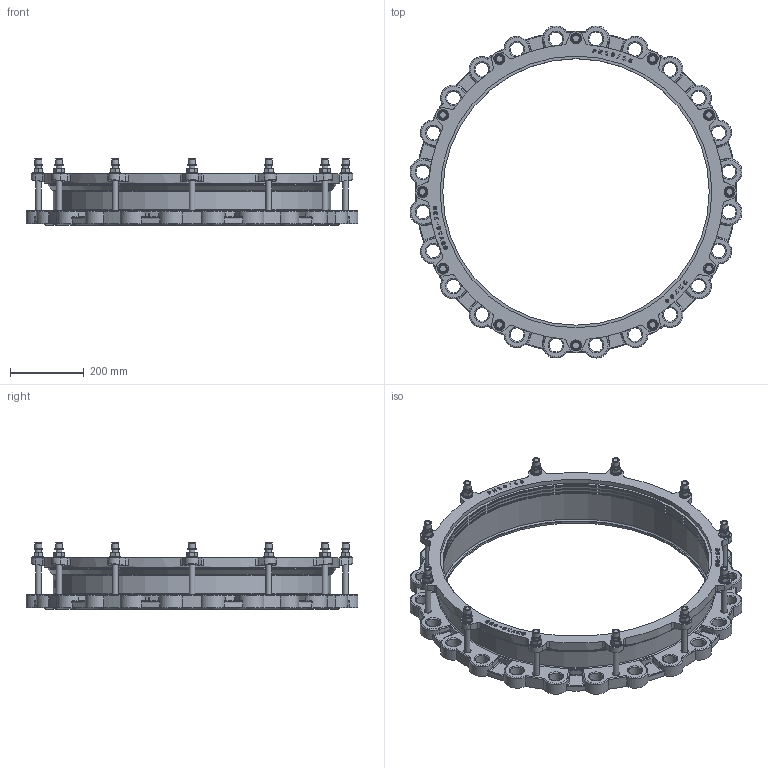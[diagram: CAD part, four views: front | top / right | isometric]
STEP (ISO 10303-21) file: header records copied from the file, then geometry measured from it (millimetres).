
FILE_DESCRIPTION(('STEP AP203'), '1');
FILE_NAME('Ôëàíöåâûé àäàïòåð', '', ('UNSPECIFIED'), ('UNSPECIFIED'), 'C3D Converter', 'C3D Toolkit', '');
FILE_SCHEMA(('CONFIG_CONTROL_DESIGN'));
Length unit declared in the file: millimetre
Assembly tree (51 placements, depth 2):
  (unnamed)
    (unnamed)
    (unnamed)  x12
    (unnamed)  x12
    (unnamed)  x12
    (unnamed)  x12
    (unnamed)
    (unnamed)
Bounding box: 902.74 x 902.74 x 181.6 mm (x, y, z)
Volume: 10504291.8 mm3; surface area: 1925725.2 mm2
Topology: 51 solids, 51 shells, 1886 faces, 4654 edges, 2778 vertices
Faces by surface type: plane 588, cylinder 543, extrusion 308, torus 191, bspline 96, cone 88, sphere 72
Full cylindrical faces by diameter (mm): 16 x36, 17 x12, 18 x24, 19.2 x12, 19.408 x1, 22.4 x12, 30 x12, 37 x24, 724.5 x5, 731.75 x3, 739 x2, 747 x1, 755 x2, 783 x1, 787 x2, 803 x1
Entity records: 67779 total; most frequent: CARTESIAN_POINT 29665, ORIENTED_EDGE 6976, DIRECTION 6246, EDGE_CURVE 3488, AXIS2_PLACEMENT_3D 2293, VERTEX_POINT 2206, EDGE_LOOP 1724, VECTOR 1660
